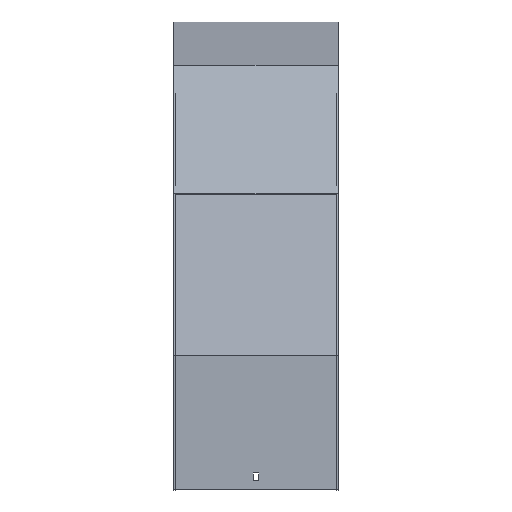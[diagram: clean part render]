
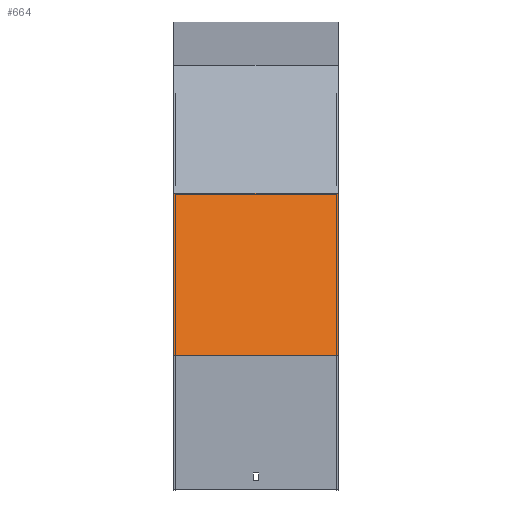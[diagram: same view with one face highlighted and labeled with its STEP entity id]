
A CAD part, top view. The second image highlights one B-rep face of the part: STEP entity #664.
In plain terms, the highlighted planar face has unit normal (0, 0.259, 0.966).
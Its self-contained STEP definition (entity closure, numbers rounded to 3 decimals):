
#78 = AXIS2_PLACEMENT_3D ( 'NONE', #137, #473, #636 ) ;
#87 = LINE ( 'NONE', #867, #576 ) ;
#137 = CARTESIAN_POINT ( 'NONE',  ( 101.5, -197.649, 526.859 ) ) ;
#185 = ORIENTED_EDGE ( 'NONE', *, *, #930, .F. ) ;
#202 = EDGE_CURVE ( 'NONE', #884, #1030, #87, .T. ) ;
#215 = DIRECTION ( 'NONE',  ( 0., -0.966, 0.259 ) ) ;
#222 = FACE_OUTER_BOUND ( 'NONE', #614, .T. ) ;
#284 = LINE ( 'NONE', #810, #591 ) ;
#318 = LINE ( 'NONE', #756, #919 ) ;
#329 = VERTEX_POINT ( 'NONE', #943 ) ;
#347 = ORIENTED_EDGE ( 'NONE', *, *, #362, .T. ) ;
#362 = EDGE_CURVE ( 'NONE', #1030, #329, #921, .T. ) ;
#380 = VECTOR ( 'NONE', #1104, 1000. ) ;
#429 = CARTESIAN_POINT ( 'NONE',  ( 101.5, -192.473, 525.472 ) ) ;
#431 = VERTEX_POINT ( 'NONE', #494 ) ;
#473 = DIRECTION ( 'NONE',  ( 0., -0.259, -0.966 ) ) ;
#494 = CARTESIAN_POINT ( 'NONE',  ( 101.5, -392.412, 579.045 ) ) ;
#555 = PLANE ( 'NONE',  #78 ) ;
#576 = VECTOR ( 'NONE', #1039, 1000. ) ;
#591 = VECTOR ( 'NONE', #215, 1000. ) ;
#614 = EDGE_LOOP ( 'NONE', ( #347, #185, #835, #662 ) ) ;
#636 = DIRECTION ( 'NONE',  ( 0., 0.966, -0.259 ) ) ;
#643 = CARTESIAN_POINT ( 'NONE',  ( -101.5, -192.473, 525.472 ) ) ;
#662 = ORIENTED_EDGE ( 'NONE', *, *, #202, .T. ) ;
#664 = ADVANCED_FACE ( 'NONE', ( #222 ), #555, .F. ) ;
#665 = DIRECTION ( 'NONE',  ( -1., 0., 0. ) ) ;
#756 = CARTESIAN_POINT ( 'NONE',  ( 101.5, -392.412, 579.045 ) ) ;
#769 = CARTESIAN_POINT ( 'NONE',  ( -101.5, -197.649, 526.859 ) ) ;
#794 = EDGE_CURVE ( 'NONE', #884, #431, #284, .T. ) ;
#810 = CARTESIAN_POINT ( 'NONE',  ( 101.5, -197.649, 526.859 ) ) ;
#835 = ORIENTED_EDGE ( 'NONE', *, *, #794, .F. ) ;
#867 = CARTESIAN_POINT ( 'NONE',  ( 101.5, -192.473, 525.472 ) ) ;
#884 = VERTEX_POINT ( 'NONE', #429 ) ;
#919 = VECTOR ( 'NONE', #665, 1000. ) ;
#921 = LINE ( 'NONE', #769, #380 ) ;
#930 = EDGE_CURVE ( 'NONE', #431, #329, #318, .T. ) ;
#943 = CARTESIAN_POINT ( 'NONE',  ( -101.5, -392.412, 579.045 ) ) ;
#1030 = VERTEX_POINT ( 'NONE', #643 ) ;
#1039 = DIRECTION ( 'NONE',  ( -1., 0., 0. ) ) ;
#1104 = DIRECTION ( 'NONE',  ( 0., -0.966, 0.259 ) ) ;
